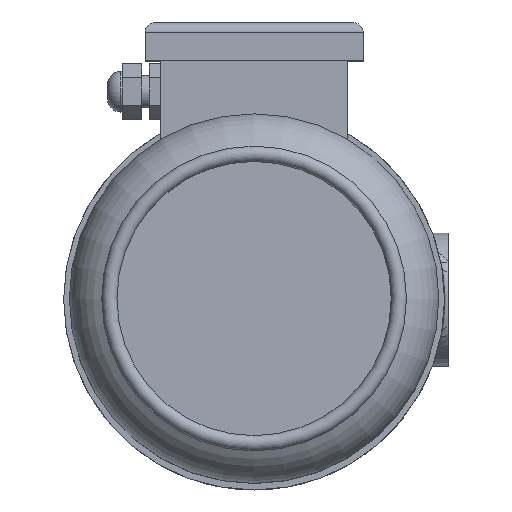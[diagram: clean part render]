
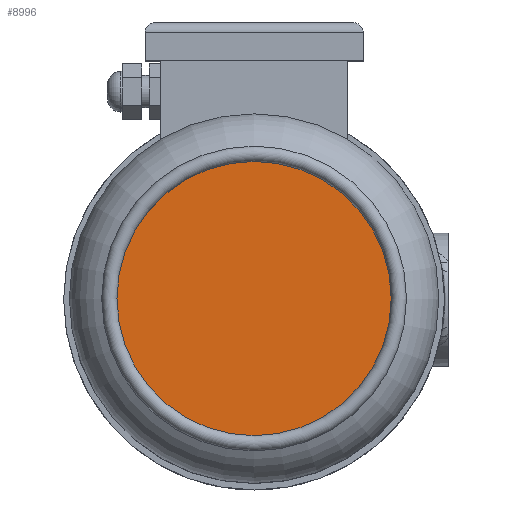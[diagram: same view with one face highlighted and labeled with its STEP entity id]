
A CAD part, top view. The second image highlights one B-rep face of the part: STEP entity #8996.
In plain terms, the highlighted planar face has unit normal (0, 0, 1).
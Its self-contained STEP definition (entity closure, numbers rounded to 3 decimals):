
#568=PLANE('',#9950);
#1169=CIRCLE('',#9951,72.);
#3696=ORIENTED_EDGE('',*,*,#5070,.F.);
#5070=EDGE_CURVE('',#5977,#5977,#1169,.T.);
#5977=VERTEX_POINT('',#18727);
#7765=EDGE_LOOP('',(#3696));
#8379=FACE_BOUND('',#7765,.T.);
#8996=ADVANCED_FACE('',(#8379),#568,.T.);
#9950=AXIS2_PLACEMENT_3D('',#18725,#12368,#12369);
#9951=AXIS2_PLACEMENT_3D('',#18726,#12370,#12371);
#12368=DIRECTION('',(0.,0.,1.));
#12369=DIRECTION('',(1.,0.,0.));
#12370=DIRECTION('',(0.,0.,-1.));
#12371=DIRECTION('',(-1.,0.,0.));
#18725=CARTESIAN_POINT('',(-72.,0.,632.64));
#18726=CARTESIAN_POINT('',(0.,0.,632.64));
#18727=CARTESIAN_POINT('',(-72.,0.,632.64));
